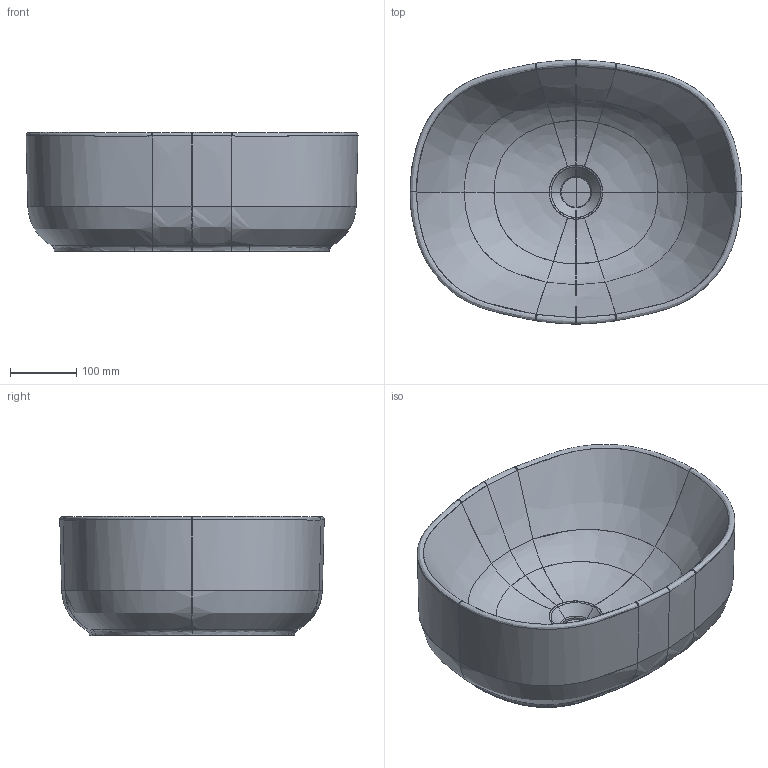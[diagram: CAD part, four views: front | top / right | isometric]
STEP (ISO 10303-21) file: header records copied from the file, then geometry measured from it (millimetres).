
FILE_DESCRIPTION(/* description */ (''),/* implementation_level */ '2;1');
FILE_NAME(/* name */ 'LAVABO~1',/* time_stamp */ '2019-12-16T10:45:38+01:00',/* author */ (''),/* organization */ (''),/* preprocessor_version */ 'ST-DEVELOPER v16.5',/* originating_system */ '',/* authorisation */ '');
FILE_SCHEMA (('AUTOMOTIVE_DESIGN'));
Length unit declared in the file: millimetre
Products named in the file (1): Document
Bounding box: 499.69 x 397.96 x 179.47 mm (x, y, z)
Surface area: 645422.2 mm2 (no closed solid volume)
Topology: 0 solids, 133 shells, 133 faces, 500 edges, 500 vertices
Faces by surface type: bspline 128, plane 5
Entity records: 39337 total; most frequent: CARTESIAN_POINT 35307, ORIENTED_EDGE 500, EDGE_CURVE 500, B_SPLINE_CURVE_WITH_KNOTS 500, VERTEX_POINT 500, EDGE_LOOP 134, COLOUR_RGB 133, FILL_AREA_STYLE_COLOUR 133
